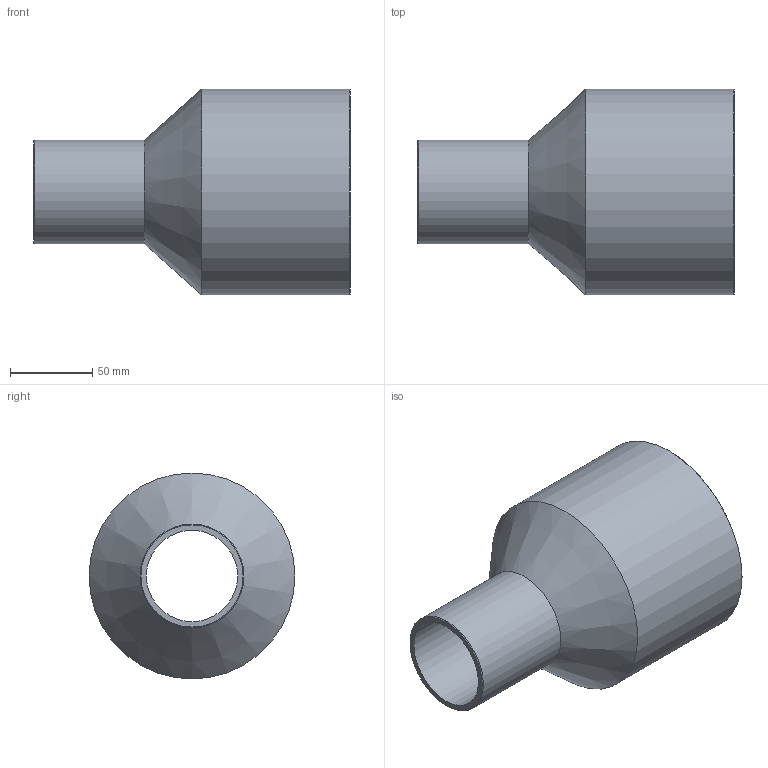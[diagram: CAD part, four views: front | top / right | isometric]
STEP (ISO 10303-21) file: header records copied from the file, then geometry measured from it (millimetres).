
FILE_DESCRIPTION(/* description */ ('Unknown'),/* implementation_level */ '2;1');
FILE_NAME(/* name */ 'RP125063B',/* time_stamp */ '2021-09-17T11:23:42+02:00',/* author */ ('Unknown'),/* organization */ ('Unknown'),/* preprocessor_version */ 'ST-DEVELOPER v16.7',/* originating_system */ 'Solid Edge',/* authorisation */ 'Unknown');
FILE_SCHEMA (('AUTOMOTIVE_DESIGN {1 0 10303 214 3 1 1}'));
Length unit declared in the file: millimetre
Products named in the file (1): RP125063B
Bounding box: 192 x 125 x 125 mm (x, y, z)
Volume: 396412.2 mm3; surface area: 118886.1 mm2
Topology: 1 solids, 1 shells, 10 faces, 19 edges, 11 vertices
Faces by surface type: cylinder 4, cone 4, plane 2
Full cylindrical faces by diameter (mm): 55.4 x1, 63 x1, 110.2 x1, 125 x1
Entity records: 238 total; most frequent: DIRECTION 42, CARTESIAN_POINT 31, AXIS2_PLACEMENT_3D 21, ORIENTED_EDGE 20, EDGE_LOOP 20, FACE_BOUND 20, EDGE_CURVE 10, VERTEX_POINT 10
